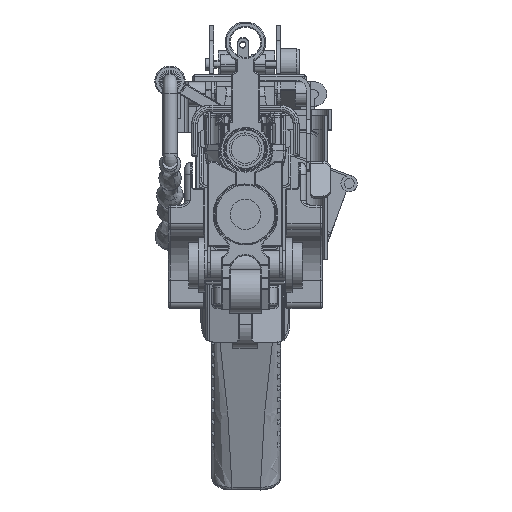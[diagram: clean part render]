
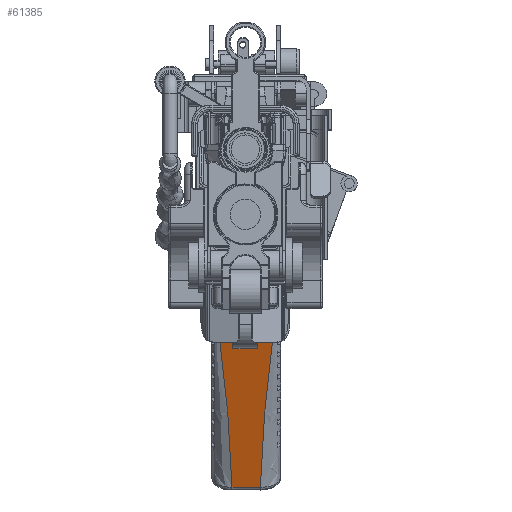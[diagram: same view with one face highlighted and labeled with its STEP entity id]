
A CAD part, top view. The second image highlights one B-rep face of the part: STEP entity #61385.
In plain terms, the highlighted planar face has unit normal (0, -0.342, 0.94) as drawn and (0, -0.94, -0.342) by its records, which use the part's own axes.
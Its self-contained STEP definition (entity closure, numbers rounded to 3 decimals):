
#60780=CARTESIAN_POINT('Line Origine',(17.,71.633,-88.047)) ;
#60784=CARTESIAN_POINT('Vertex',(4.,71.633,-88.047)) ;
#60786=CARTESIAN_POINT('Vertex',(30.,71.633,-88.047)) ;
#61337=CARTESIAN_POINT('Axis2P3D Location',(0.,68.617,-79.763)) ;
#61343=CARTESIAN_POINT('Control Point',(24.001,97.9,-160.216)) ;
#61344=CARTESIAN_POINT('Control Point',(24.007,95.349,-153.208)) ;
#61345=CARTESIAN_POINT('Control Point',(24.061,92.8,-146.204)) ;
#61346=CARTESIAN_POINT('Control Point',(24.398,90.256,-139.213)) ;
#61347=CARTESIAN_POINT('Control Point',(25.725,85.138,-125.154)) ;
#61348=CARTESIAN_POINT('Control Point',(27.819,80.044,-111.158)) ;
#61349=CARTESIAN_POINT('Control Point',(28.933,77.482,-104.118)) ;
#61350=CARTESIAN_POINT('Control Point',(29.862,74.765,-96.653)) ;
#61351=CARTESIAN_POINT('Control Point',(29.993,72.045,-89.181)) ;
#61352=CARTESIAN_POINT('Control Point',(29.997,71.915,-88.823)) ;
#61353=CARTESIAN_POINT('Control Point',(30.,71.775,-88.439)) ;
#61354=CARTESIAN_POINT('Control Point',(30.,71.633,-88.047)) ;
#61355=CARTESIAN_POINT('Vertex',(24.001,97.9,-160.216)) ;
#61359=CARTESIAN_POINT('Control Point',(9.999,97.9,-160.216)) ;
#61360=CARTESIAN_POINT('Control Point',(9.993,95.349,-153.208)) ;
#61361=CARTESIAN_POINT('Control Point',(9.939,92.8,-146.204)) ;
#61362=CARTESIAN_POINT('Control Point',(9.602,90.256,-139.213)) ;
#61363=CARTESIAN_POINT('Control Point',(8.275,85.138,-125.154)) ;
#61364=CARTESIAN_POINT('Control Point',(6.181,80.044,-111.158)) ;
#61365=CARTESIAN_POINT('Control Point',(5.067,77.482,-104.118)) ;
#61366=CARTESIAN_POINT('Control Point',(4.138,74.765,-96.653)) ;
#61367=CARTESIAN_POINT('Control Point',(4.007,72.045,-89.181)) ;
#61368=CARTESIAN_POINT('Control Point',(4.003,71.915,-88.823)) ;
#61369=CARTESIAN_POINT('Control Point',(4.,71.775,-88.439)) ;
#61370=CARTESIAN_POINT('Control Point',(4.,71.633,-88.047)) ;
#61371=CARTESIAN_POINT('Vertex',(9.999,97.9,-160.216)) ;
#61374=CARTESIAN_POINT('Line Origine',(17.,97.9,-160.216)) ;
#60781=DIRECTION('Vector Direction',(1.,0.,0.)) ;
#61338=DIRECTION('Axis2P3D Direction',(0.,-0.94,-0.342)) ;
#61339=DIRECTION('Axis2P3D XDirection',(0.,0.342,-0.94)) ;
#61375=DIRECTION('Vector Direction',(-1.,0.,0.)) ;
#61340=AXIS2_PLACEMENT_3D('Plane Axis2P3D',#61337,#61338,#61339) ;
#61380=ORIENTED_EDGE('',*,*,#61357,.F.) ;
#61381=ORIENTED_EDGE('',*,*,#60788,.F.) ;
#61382=ORIENTED_EDGE('',*,*,#61373,.T.) ;
#61383=ORIENTED_EDGE('',*,*,#61378,.T.) ;
#60782=VECTOR('Line Direction',#60781,1.) ;
#61376=VECTOR('Line Direction',#61375,1.) ;
#61385=ADVANCED_FACE('PartBody',(#61384),#61341,.T.) ;
#61342=B_SPLINE_CURVE_WITH_KNOTS('',5,(#61343,#61344,#61345,#61346,#61347,#61348,#61349,#61350,#61351,#61352,#61353,#61354),.UNSPECIFIED.,.F.,.U.,(6,3,3,6),(42.954,107.469,172.797,176.428),.UNSPECIFIED.) ;
#61358=B_SPLINE_CURVE_WITH_KNOTS('',5,(#61359,#61360,#61361,#61362,#61363,#61364,#61365,#61366,#61367,#61368,#61369,#61370),.UNSPECIFIED.,.F.,.U.,(6,3,3,6),(42.957,107.471,172.799,176.43),.UNSPECIFIED.) ;
#60788=EDGE_CURVE('',#60785,#60787,#60783,.T.) ;
#61357=EDGE_CURVE('',#60787,#61356,#61342,.F.) ;
#61373=EDGE_CURVE('',#60785,#61372,#61358,.F.) ;
#61378=EDGE_CURVE('',#61372,#61356,#61377,.F.) ;
#61379=EDGE_LOOP('',(#61380,#61381,#61382,#61383)) ;
#61384=FACE_OUTER_BOUND('',#61379,.T.) ;
#60783=LINE('Line',#60780,#60782) ;
#61377=LINE('Line',#61374,#61376) ;
#61341=PLANE('Plane',#61340) ;
#60785=VERTEX_POINT('',#60784) ;
#60787=VERTEX_POINT('',#60786) ;
#61356=VERTEX_POINT('',#61355) ;
#61372=VERTEX_POINT('',#61371) ;
